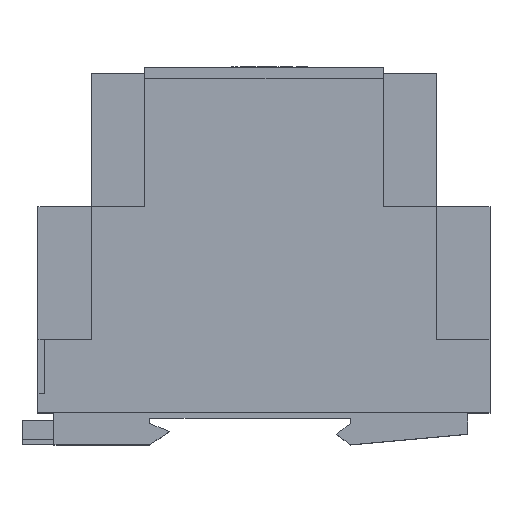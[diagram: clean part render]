
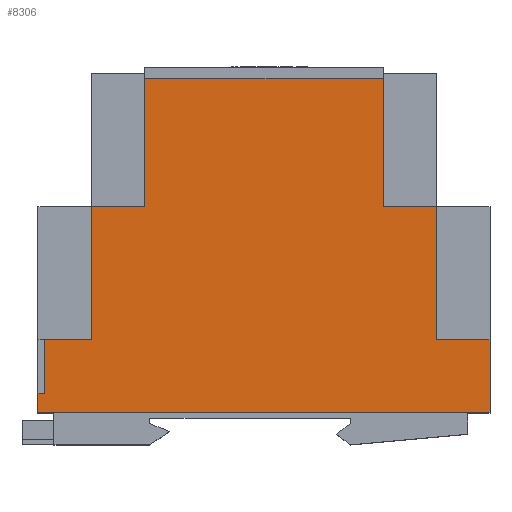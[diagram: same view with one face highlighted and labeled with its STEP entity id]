
A CAD part, top view. The second image highlights one B-rep face of the part: STEP entity #8306.
In plain terms, the highlighted planar face has unit normal (0, 0, 1).
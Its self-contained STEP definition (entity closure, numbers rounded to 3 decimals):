
#415 = DIRECTION ( 'NONE',  ( 1., 0., 0. ) ) ;
#725 = EDGE_CURVE ( 'NONE', #2857, #10849, #5313, .T. ) ;
#851 = CARTESIAN_POINT ( 'NONE',  ( 0., 13.7, 1.3 ) ) ;
#951 = ORIENTED_EDGE ( 'NONE', *, *, #15830, .F. ) ;
#1094 = CARTESIAN_POINT ( 'NONE',  ( 0., 62.7, 1.3 ) ) ;
#1197 = ORIENTED_EDGE ( 'NONE', *, *, #10254, .F. ) ;
#1540 = EDGE_CURVE ( 'NONE', #17692, #8761, #7311, .T. ) ;
#1726 = VECTOR ( 'NONE', #20388, 1000. ) ;
#1875 = DIRECTION ( 'NONE',  ( 0., -1., 0. ) ) ;
#1941 = EDGE_CURVE ( 'NONE', #10849, #15882, #15269, .T. ) ;
#2274 = CARTESIAN_POINT ( 'NONE',  ( 0., 0., 1.3 ) ) ;
#2495 = VECTOR ( 'NONE', #16793, 1000. ) ;
#2857 = VERTEX_POINT ( 'NONE', #3927 ) ;
#2983 = ORIENTED_EDGE ( 'NONE', *, *, #725, .F. ) ;
#3332 = EDGE_CURVE ( 'NONE', #4157, #3356, #15741, .T. ) ;
#3356 = VERTEX_POINT ( 'NONE', #15588 ) ;
#3369 = ORIENTED_EDGE ( 'NONE', *, *, #3332, .F. ) ;
#3899 = CARTESIAN_POINT ( 'NONE',  ( -74.8, 38.7, 1.3 ) ) ;
#3927 = CARTESIAN_POINT ( 'NONE',  ( -83.5, 3.7, 1.3 ) ) ;
#4157 = VERTEX_POINT ( 'NONE', #10421 ) ;
#4224 = CARTESIAN_POINT ( 'NONE',  ( 0., 0., 1.3 ) ) ;
#4333 = VECTOR ( 'NONE', #14193, 1000. ) ;
#4416 = CARTESIAN_POINT ( 'NONE',  ( -83.5, 3.7, 1.3 ) ) ;
#4585 = VERTEX_POINT ( 'NONE', #13012 ) ;
#5313 = LINE ( 'NONE', #10802, #13732 ) ;
#5427 = DIRECTION ( 'NONE',  ( 0., 0., 1. ) ) ;
#5561 = CARTESIAN_POINT ( 'NONE',  ( -84.8, 0., 1.3 ) ) ;
#5752 = EDGE_CURVE ( 'NONE', #17582, #13072, #17639, .T. ) ;
#6115 = CARTESIAN_POINT ( 'NONE',  ( -64.8, 0., 1.3 ) ) ;
#6487 = LINE ( 'NONE', #8207, #14134 ) ;
#6532 = DIRECTION ( 'NONE',  ( 0., -1., 0. ) ) ;
#6578 = VECTOR ( 'NONE', #415, 1000. ) ;
#6664 = ORIENTED_EDGE ( 'NONE', *, *, #5752, .F. ) ;
#6708 = CARTESIAN_POINT ( 'NONE',  ( -20., 0., 1.3 ) ) ;
#7080 = ORIENTED_EDGE ( 'NONE', *, *, #16435, .F. ) ;
#7214 = FACE_OUTER_BOUND ( 'NONE', #13213, .T. ) ;
#7311 = LINE ( 'NONE', #12713, #13226 ) ;
#7500 = EDGE_CURVE ( 'NONE', #2857, #10242, #8762, .T. ) ;
#7568 = LINE ( 'NONE', #5561, #1726 ) ;
#7741 = ORIENTED_EDGE ( 'NONE', *, *, #18671, .F. ) ;
#8063 = DIRECTION ( 'NONE',  ( 1., 0., 0. ) ) ;
#8207 = CARTESIAN_POINT ( 'NONE',  ( 0., 13.7, 1.3 ) ) ;
#8301 = VECTOR ( 'NONE', #10636, 1000. ) ;
#8306 = ADVANCED_FACE ( 'NONE', ( #7214 ), #18665, .T. ) ;
#8761 = VERTEX_POINT ( 'NONE', #11429 ) ;
#8762 = LINE ( 'NONE', #4416, #11344 ) ;
#9672 = CARTESIAN_POINT ( 'NONE',  ( -83.5, 13.7, 1.3 ) ) ;
#9906 = CARTESIAN_POINT ( 'NONE',  ( -20., 62.7, 1.3 ) ) ;
#10176 = CARTESIAN_POINT ( 'NONE',  ( 0., 13.7, 1.3 ) ) ;
#10242 = VERTEX_POINT ( 'NONE', #17579 ) ;
#10254 = EDGE_CURVE ( 'NONE', #8761, #4585, #14853, .T. ) ;
#10365 = VECTOR ( 'NONE', #12190, 1000. ) ;
#10421 = CARTESIAN_POINT ( 'NONE',  ( 0., 0., 1.3 ) ) ;
#10636 = DIRECTION ( 'NONE',  ( -1., 0., 0. ) ) ;
#10784 = ORIENTED_EDGE ( 'NONE', *, *, #1540, .F. ) ;
#10802 = CARTESIAN_POINT ( 'NONE',  ( -83.5, 3.7, 1.3 ) ) ;
#10849 = VERTEX_POINT ( 'NONE', #9672 ) ;
#11313 = VECTOR ( 'NONE', #15829, 1000. ) ;
#11344 = VECTOR ( 'NONE', #12476, 1000. ) ;
#11429 = CARTESIAN_POINT ( 'NONE',  ( -64.8, 38.7, 1.3 ) ) ;
#11568 = VECTOR ( 'NONE', #1875, 1000. ) ;
#11701 = VECTOR ( 'NONE', #6532, 1000. ) ;
#12119 = AXIS2_PLACEMENT_3D ( 'NONE', #16826, #5427, #15433 ) ;
#12190 = DIRECTION ( 'NONE',  ( 0., 1., 0. ) ) ;
#12476 = DIRECTION ( 'NONE',  ( -1., 0., 0. ) ) ;
#12713 = CARTESIAN_POINT ( 'NONE',  ( 0., 38.7, 1.3 ) ) ;
#12837 = EDGE_CURVE ( 'NONE', #15882, #17692, #14743, .T. ) ;
#12899 = EDGE_CURVE ( 'NONE', #3356, #10242, #7568, .T. ) ;
#13012 = CARTESIAN_POINT ( 'NONE',  ( -64.8, 62.7, 1.3 ) ) ;
#13072 = VERTEX_POINT ( 'NONE', #14195 ) ;
#13213 = EDGE_LOOP ( 'NONE', ( #14587, #18782, #3369, #19352, #951, #6664, #7741, #16402, #7080, #1197, #10784, #21247, #18255, #2983 ) ) ;
#13226 = VECTOR ( 'NONE', #17609, 1000. ) ;
#13288 = LINE ( 'NONE', #20604, #4333 ) ;
#13732 = VECTOR ( 'NONE', #13955, 1000. ) ;
#13933 = VERTEX_POINT ( 'NONE', #9906 ) ;
#13948 = CARTESIAN_POINT ( 'NONE',  ( -10., 38.7, 1.3 ) ) ;
#13955 = DIRECTION ( 'NONE',  ( 0., 1., 0. ) ) ;
#14134 = VECTOR ( 'NONE', #8063, 1000. ) ;
#14193 = DIRECTION ( 'NONE',  ( 1., 0., 0. ) ) ;
#14195 = CARTESIAN_POINT ( 'NONE',  ( -10., 13.7, 1.3 ) ) ;
#14587 = ORIENTED_EDGE ( 'NONE', *, *, #7500, .T. ) ;
#14743 = LINE ( 'NONE', #18719, #10365 ) ;
#14853 = LINE ( 'NONE', #6115, #17143 ) ;
#14919 = LINE ( 'NONE', #6708, #11568 ) ;
#15269 = LINE ( 'NONE', #10176, #6578 ) ;
#15433 = DIRECTION ( 'NONE',  ( 1., 0., 0. ) ) ;
#15588 = CARTESIAN_POINT ( 'NONE',  ( -84.8, 0., 1.3 ) ) ;
#15719 = EDGE_CURVE ( 'NONE', #13933, #17368, #14919, .T. ) ;
#15741 = LINE ( 'NONE', #4224, #8301 ) ;
#15829 = DIRECTION ( 'NONE',  ( 1., 0., 0. ) ) ;
#15830 = EDGE_CURVE ( 'NONE', #13072, #18613, #6487, .T. ) ;
#15882 = VERTEX_POINT ( 'NONE', #20095 ) ;
#16082 = CARTESIAN_POINT ( 'NONE',  ( -20., 38.7, 1.3 ) ) ;
#16354 = CARTESIAN_POINT ( 'NONE',  ( -10., 0., 1.3 ) ) ;
#16402 = ORIENTED_EDGE ( 'NONE', *, *, #15719, .F. ) ;
#16435 = EDGE_CURVE ( 'NONE', #4585, #13933, #19540, .T. ) ;
#16564 = DIRECTION ( 'NONE',  ( 0., 1., 0. ) ) ;
#16793 = DIRECTION ( 'NONE',  ( 0., -1., 0. ) ) ;
#16826 = CARTESIAN_POINT ( 'NONE',  ( 0., 0., 1.3 ) ) ;
#17143 = VECTOR ( 'NONE', #16564, 1000. ) ;
#17368 = VERTEX_POINT ( 'NONE', #16082 ) ;
#17579 = CARTESIAN_POINT ( 'NONE',  ( -84.8, 3.7, 1.3 ) ) ;
#17582 = VERTEX_POINT ( 'NONE', #13948 ) ;
#17609 = DIRECTION ( 'NONE',  ( 1., 0., 0. ) ) ;
#17639 = LINE ( 'NONE', #16354, #11701 ) ;
#17692 = VERTEX_POINT ( 'NONE', #3899 ) ;
#18255 = ORIENTED_EDGE ( 'NONE', *, *, #1941, .F. ) ;
#18613 = VERTEX_POINT ( 'NONE', #851 ) ;
#18665 = PLANE ( 'NONE',  #12119 ) ;
#18671 = EDGE_CURVE ( 'NONE', #17368, #17582, #13288, .T. ) ;
#18719 = CARTESIAN_POINT ( 'NONE',  ( -74.8, 0., 1.3 ) ) ;
#18782 = ORIENTED_EDGE ( 'NONE', *, *, #12899, .F. ) ;
#19352 = ORIENTED_EDGE ( 'NONE', *, *, #20712, .F. ) ;
#19540 = LINE ( 'NONE', #1094, #11313 ) ;
#19917 = LINE ( 'NONE', #2274, #2495 ) ;
#20095 = CARTESIAN_POINT ( 'NONE',  ( -74.8, 13.7, 1.3 ) ) ;
#20388 = DIRECTION ( 'NONE',  ( 0., 1., 0. ) ) ;
#20604 = CARTESIAN_POINT ( 'NONE',  ( 0., 38.7, 1.3 ) ) ;
#20712 = EDGE_CURVE ( 'NONE', #18613, #4157, #19917, .T. ) ;
#21247 = ORIENTED_EDGE ( 'NONE', *, *, #12837, .F. ) ;
